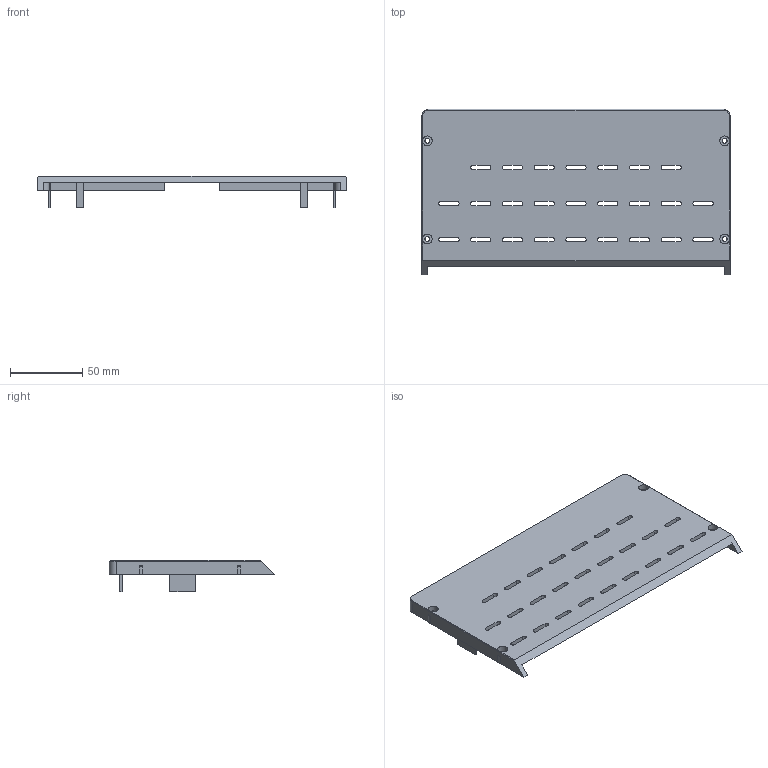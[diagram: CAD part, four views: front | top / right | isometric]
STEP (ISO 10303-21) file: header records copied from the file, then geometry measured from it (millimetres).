
FILE_DESCRIPTION(('Open CASCADE Model'),'2;1');
FILE_NAME('Open CASCADE Shape Model','2026-11-10T17:01:23',('Author'),( 'Open CASCADE'),'Open CASCADE STEP processor 7.9','Open CASCADE 7.9' ,'Unknown');
FILE_SCHEMA(('AUTOMOTIVE_DESIGN { 1 0 10303 214 1 1 1 1 }'));
Length unit declared in the file: millimetre
Products named in the file (2): T07_Upper_sensor_rear_cover; 01_Upper_sensor_rear_cover
Assembly tree (1 placements, depth 2):
  T07_Upper_sensor_rear_cover
    01_Upper_sensor_rear_cover
Bounding box: 214 x 114.5 x 21.69 mm (x, y, z)
Volume: 95437 mm3; surface area: 56650.1 mm2
Topology: 1 solids, 1 shells, 273 faces, 797 edges, 530 vertices
Faces by surface type: plane 151, cylinder 120, cone 2
Full cylindrical faces by diameter (mm): 3.4 x4, 6.7 x4
Entity records: 19698 total; most frequent: CARTESIAN_POINT 3378, DIRECTION 3160, LINE 1887, VECTOR 1887, ORIENTED_EDGE 1594, PCURVE 1594, DEFINITIONAL_REPRESENTATION 1594, EDGE_CURVE 797
